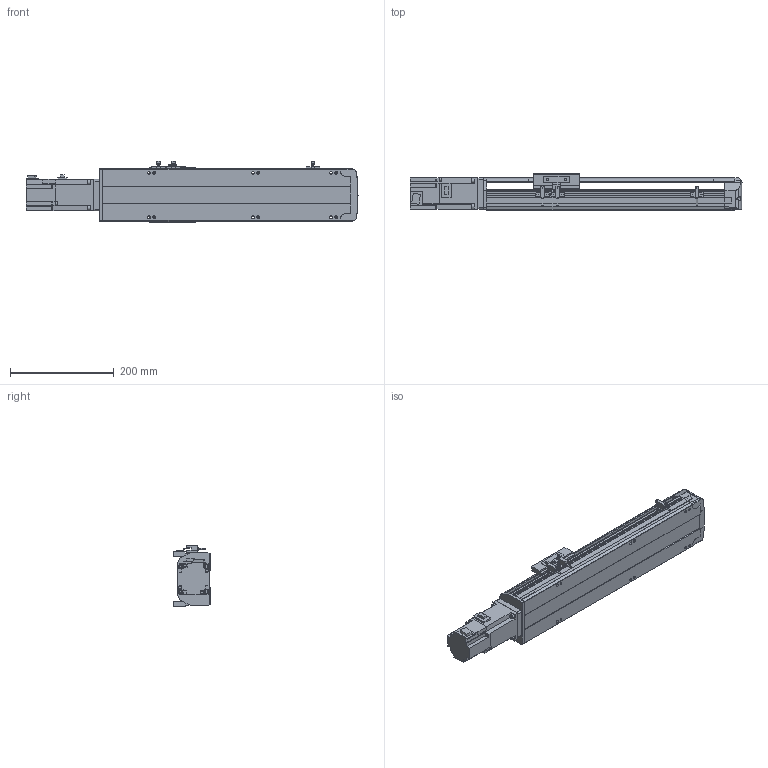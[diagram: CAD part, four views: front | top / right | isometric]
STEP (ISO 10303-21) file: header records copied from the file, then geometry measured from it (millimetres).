
FILE_DESCRIPTION( ( 'STEP AP214' ), '1' );
FILE_NAME( 'x:/temp/worker_13/temp/exporttempdir_3252_143_xtexL/format_0/PSS120-L10-S250-BC-T40-C1-N(0).stp', '2022-06-02T00:32:54', ( 'License CC BY-ND 4.0' ), ( 'CADENAS' ), ' ', 'PARTsolutions', ' ' );
FILE_SCHEMA( ( 'AUTOMOTIVE_DESIGN { 1 0 10303 214 1 1 1 1 }' ) );
Length unit declared in the file: millimetre
Products named in the file (8): PSS120-L10-S250-BC-T40-C1-N(0); _PSS120-S250-BC-C1-N_body; _PSS120-N_Q; _PSS120-BC-C1-N_sl; _PSS120-N_sensor; _PSS120BC-N_h; _T40-p1; _PSS120-S250-BC-N_S
Assembly tree (9 placements, depth 2):
  PSS120-L10-S250-BC-T40-C1-N(0)
    _PSS120-S250-BC-C1-N_body
    _PSS120-N_Q
    _PSS120-BC-C1-N_sl
    _PSS120-N_sensor  x3
    _PSS120BC-N_h
    _T40-p1
    _PSS120-S250-BC-N_S
Bounding box: 638.7 x 70 x 117.7 mm (x, y, z)
Volume: 2130473 mm3; surface area: 393717.7 mm2
Topology: 9 solids, 9 shells, 785 faces, 2104 edges, 1396 vertices
Faces by surface type: plane 541, cylinder 226, cone 18
Full cylindrical faces by diameter (mm): 2.8 x3, 4 x4, 4.134 x10, 4.2 x4, 4.4 x2, 4.5 x4, 4.6 x3, 4.917 x4, 5 x6, 5.5 x13, 7 x2, 8 x8, 8.5 x10, 14 x1, 28 x1, 32 x1, 50 x1
Entity records: 26741 total; most frequent: CARTESIAN_POINT 4082, DIRECTION 3525, ORIENTED_EDGE 3430, EDGE_CURVE 1715, LINE 1223, VECTOR 1223, VERTEX_POINT 1190, AXIS2_PLACEMENT_3D 1151
